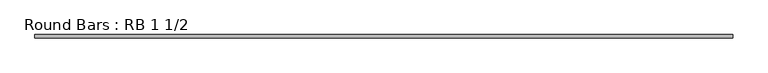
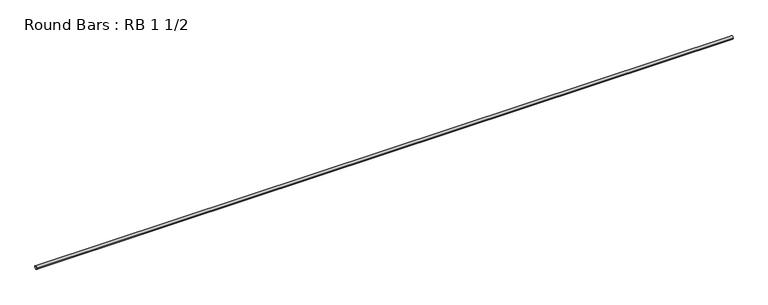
"""IFC4 building model written with IfcOpenShell, lengths in millimetres: member geometry, Round Bars : RB 1 1/2."""

from ifc_helpers import new_model, si_unit, point, frame, origin, origin_2d, place, context, project, spatial, circle_curve, trimmed, segment, composite_curve, outline, extrude, source, transform, mapped, element, save


def round_bars_rb_1_1_2_ca92564a(model_context):
    return source(origin(), model_context, "Body", "SweptSolid", [
        extrude(outline(composite_curve([segment(trimmed(circle_curve(origin_2d(), 19.05), [point((19.05, 0.0))], [point((-19.05, 0.0))], False, "CARTESIAN"), True, "CONTINUOUS"), segment(trimmed(circle_curve(origin_2d(), 19.05), [point((-19.05, 0.0))], [point((19.05, 0.0))], False, "CARTESIAN"), True, "CONTINUOUS")], self_intersect=False)), frame((-4237.9606946, 0.0, 0.0), z_axis=(1.0, 0.0, 0.0), x_axis=(0.0, 1.0, 0.0)), (0.0, 0.0, 1.0), 8326.6226439),
    ])


if __name__ == "__main__":
    model = new_model("IFC4")
    model_context = context("Model", 3, world=origin())
    ifc_project = project(units=[si_unit("LENGTHUNIT", "METRE", prefix="MILLI")], contexts=[model_context])
    site = spatial("IfcSite", under=ifc_project)
    building = spatial("IfcBuilding", under=site)
    placement = place(None, origin())
    round_bars_rb_1_1_2_shape = round_bars_rb_1_1_2_ca92564a(model_context)
    element("IfcMember", 1, ObjectType="Round Bars : RB 1 1/2", at=placement, inside=building, context=model_context, shape_type="MappedRepresentation", body=[
        mapped(round_bars_rb_1_1_2_shape, transform((0.0, 0.0, 0.0), x_axis=(1.0, 0.0, 0.0), y_axis=(0.0, 1.0, 0.0), z_axis=(0.0, 0.0, 1.0))),
    ])
    save(model, "model.ifc")
